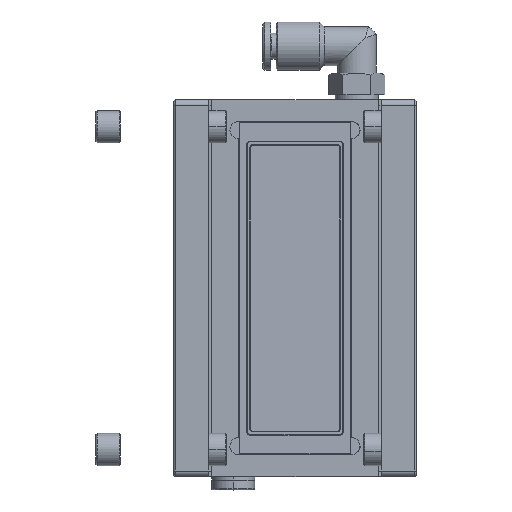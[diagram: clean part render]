
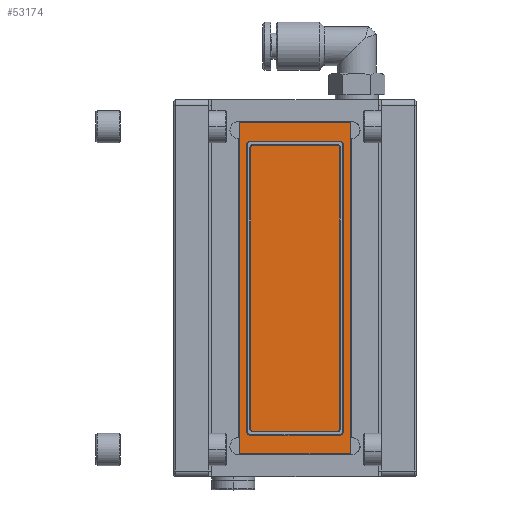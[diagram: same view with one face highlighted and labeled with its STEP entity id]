
A CAD part, top view. The second image highlights one B-rep face of the part: STEP entity #53174.
In plain terms, the highlighted planar face has unit normal (0.026, 0, 1).
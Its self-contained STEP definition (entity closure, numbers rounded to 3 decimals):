
#52998=DIRECTION('',(0.,-1.,0.));
#52999=VECTOR('',#52998,61.6);
#53000=CARTESIAN_POINT('',(-10.315,30.8,-8.196));
#53001=LINE('',#53000,#52999);
#53019=DIRECTION('',(1.,0.,-0.026));
#53020=VECTOR('',#53019,20.6);
#53021=CARTESIAN_POINT('',(-10.315,-30.8,-8.196));
#53022=LINE('',#53021,#53020);
#53040=DIRECTION('',(0.,1.,0.));
#53041=VECTOR('',#53040,61.6);
#53042=CARTESIAN_POINT('',(10.278,-30.8,-8.735));
#53043=LINE('',#53042,#53041);
#53068=DIRECTION('',(-1.,0.,0.026));
#53069=VECTOR('',#53068,20.6);
#53070=CARTESIAN_POINT('',(10.278,30.8,-8.735));
#53071=LINE('',#53070,#53069);
#53083=CARTESIAN_POINT('',(-10.315,-30.8,-8.196));
#53084=VERTEX_POINT('',#53083);
#53085=CARTESIAN_POINT('',(-10.315,30.8,-8.196));
#53086=VERTEX_POINT('',#53085);
#53087=CARTESIAN_POINT('',(10.278,-30.8,-8.735));
#53088=VERTEX_POINT('',#53087);
#53089=CARTESIAN_POINT('',(10.278,30.8,-8.735));
#53090=VERTEX_POINT('',#53089);
#53163=CARTESIAN_POINT('',(-0.019,0.,-8.466));
#53164=DIRECTION('',(0.026,0.,1.));
#53165=DIRECTION('',(0.,-1.,0.));
#53166=AXIS2_PLACEMENT_3D('',#53163,#53164,#53165);
#53167=PLANE('',#53166);
#53168=ORIENTED_EDGE('',*,*,#53117,.F.);
#53169=ORIENTED_EDGE('',*,*,#53158,.F.);
#53170=ORIENTED_EDGE('',*,*,#53145,.F.);
#53171=ORIENTED_EDGE('',*,*,#53131,.F.);
#53172=EDGE_LOOP('',(#53168,#53169,#53170,#53171));
#53173=FACE_OUTER_BOUND('',#53172,.F.);
#53117=EDGE_CURVE('',#53086,#53084,#53001,.T.);
#53131=EDGE_CURVE('',#53084,#53088,#53022,.T.);
#53145=EDGE_CURVE('',#53088,#53090,#53043,.T.);
#53158=EDGE_CURVE('',#53090,#53086,#53071,.T.);
#53174=ADVANCED_FACE('',(#53173),#53167,.T.);
